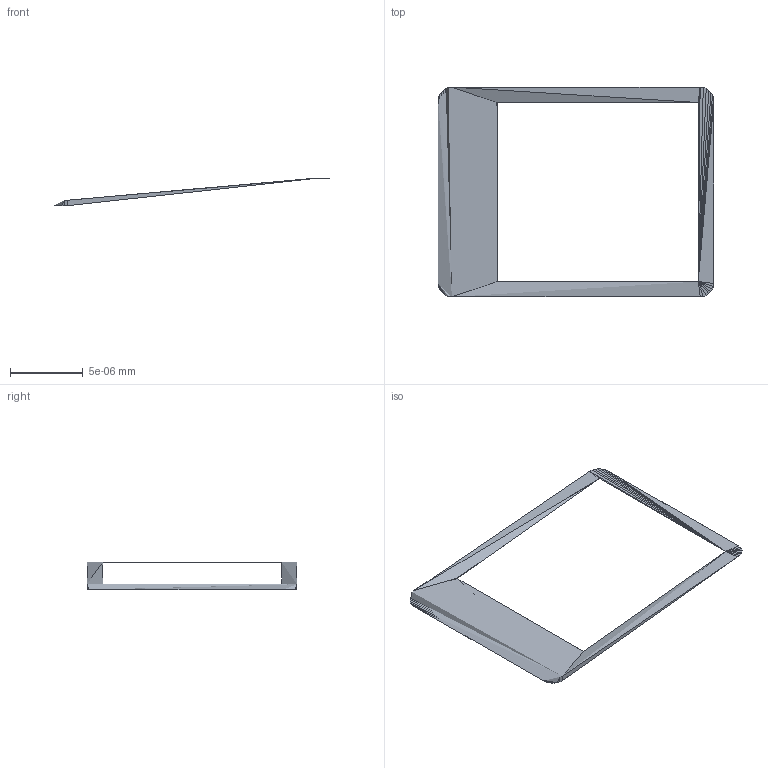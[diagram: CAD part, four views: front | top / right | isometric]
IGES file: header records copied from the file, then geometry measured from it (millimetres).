
Global section: file name: D:\work work Work\JO UNILAMP\Unilamp 2008-2009 up\TUBE\MAXI TUBE- WALL UP & DOWN LIGHT\maxi tube wallup & downlight for par38 lamp.IGS; native system:  3D Studio VIZ R3.0 ; preprocessor:  3D Studio VIZ Iges Exporter R3.0 ; author: No Author specified; organization: No Organization specified; units: inch
Bounding box: 0 x 0 x 0 mm (x, y, z)
Surface area: 0 mm2 (no closed solid volume)
Topology: 0 solids, 0 shells, 144 faces, 544 edges, 400 vertices
Faces by surface type: bspline 144
